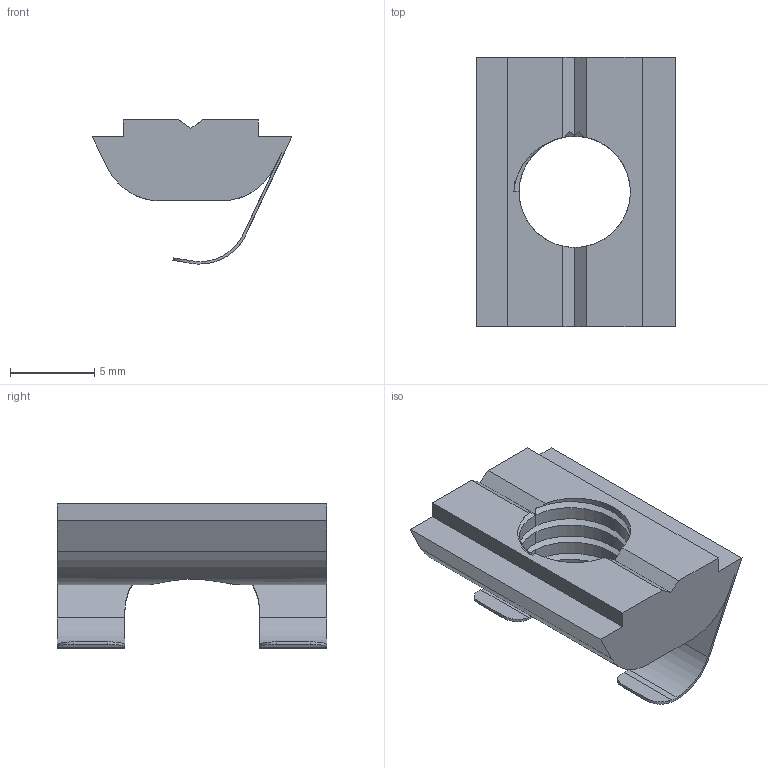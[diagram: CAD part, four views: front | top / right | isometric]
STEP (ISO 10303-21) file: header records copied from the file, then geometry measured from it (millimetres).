
FILE_DESCRIPTION(('FreeCAD Model'),'2;1');
FILE_NAME('Open CASCADE Shape Model','2021-05-04T11:52:24',('Author'),( ''),'Open CASCADE STEP processor 7.5','FreeCAD','Unknown');
FILE_SCHEMA(('AUTOMOTIVE_DESIGN { 1 0 10303 214 1 1 1 1 }'));
Length unit declared in the file: millimetre
Products named in the file (1): 1
Bounding box: 11.85 x 16 x 8.55 mm (x, y, z)
Volume: 545.2 mm3; surface area: 812.5 mm2
Topology: 1 solids, 1 shells, 61 faces, 179 edges, 118 vertices
Faces by surface type: plane 30, cylinder 27, bspline 4
Entity records: 6737 total; most frequent: CARTESIAN_POINT 3316, DIRECTION 600, LINE 361, VECTOR 361, ORIENTED_EDGE 358, PCURVE 358, DEFINITIONAL_REPRESENTATION 358, EDGE_CURVE 179
